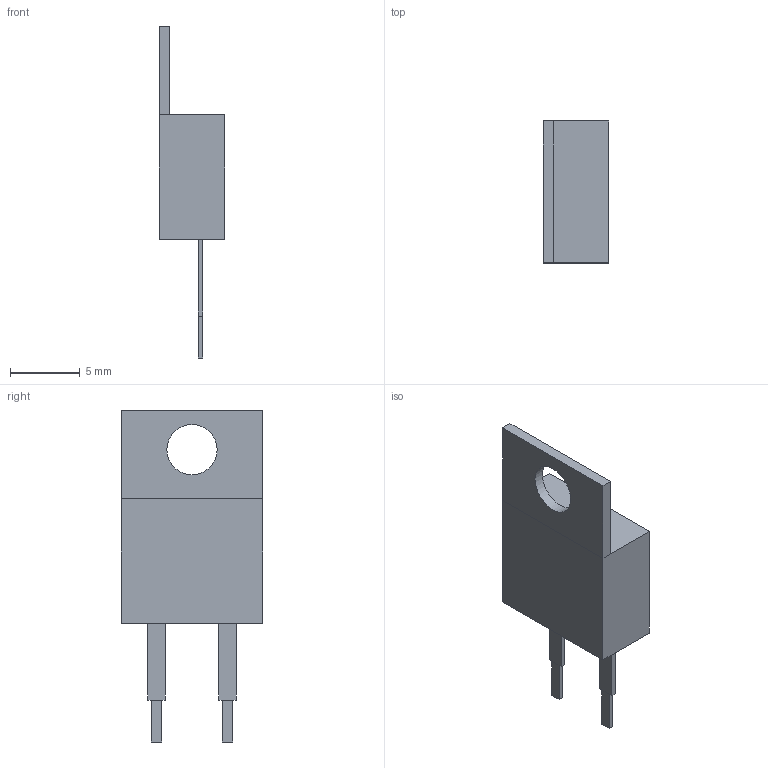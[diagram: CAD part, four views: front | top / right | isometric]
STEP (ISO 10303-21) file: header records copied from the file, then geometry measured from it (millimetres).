
FILE_DESCRIPTION(('FreeCAD Model'),'2;1');
FILE_NAME('Open CASCADE Shape Model','2023-12-07T03:51:02',('Author'),( ''),'Open CASCADE STEP processor 7.6','FreeCAD','Unknown');
FILE_SCHEMA(('AUTOMOTIVE_DESIGN { 1 0 10303 214 1 1 1 1 }'));
Length unit declared in the file: millimetre
Products named in the file (1): Group
Bounding box: 4.7 x 10.15 x 23.74 mm (x, y, z)
Volume: 471.4 mm3; surface area: 534.4 mm2
Topology: 1 solids, 1 shells, 34 faces, 78 edges, 48 vertices
Faces by surface type: plane 33, cylinder 1
Full cylindrical faces by diameter (mm): 3.6 x1
Entity records: 2198 total; most frequent: CARTESIAN_POINT 345, DIRECTION 288, LINE 214, VECTOR 214, ORIENTED_EDGE 156, PCURVE 156, DEFINITIONAL_REPRESENTATION 156, EDGE_CURVE 78
